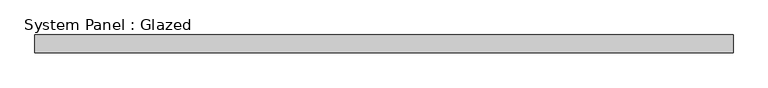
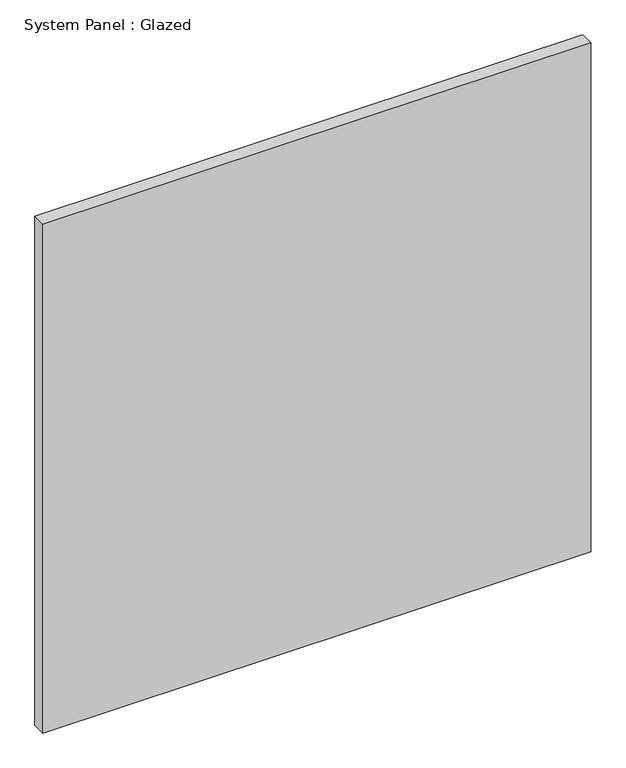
"""IFC4 building model written with IfcOpenShell, lengths in millimetres: plate geometry, System Panel : Glazed."""

from ifc_helpers import new_model, si_unit, origin, origin_with_axes, place, context, project, spatial, polyline, outline, extrude, source, transform, mapped, element, save


def system_panel_glazed_6a0b3b0c(model_context):
    return source(origin(), model_context, "Body", "SweptSolid", [
        extrude(outline(polyline([(501.1964286, 19.05), (-501.1964286, 19.05), (-501.1964286, 44.45), (501.1964286, 44.45), (501.1964286, 19.05)])), origin_with_axes(), (0.0, 0.0, 1.0), 984.3895219),
    ])


if __name__ == "__main__":
    model = new_model("IFC4")
    model_context = context("Model", 3, world=origin())
    ifc_project = project(units=[si_unit("LENGTHUNIT", "METRE", prefix="MILLI")], contexts=[model_context])
    site = spatial("IfcSite", under=ifc_project)
    building = spatial("IfcBuilding", under=site)
    placement = place(None, origin())
    system_panel_glazed_shape = system_panel_glazed_6a0b3b0c(model_context)
    element("IfcPlate", 1, ObjectType="System Panel : Glazed", at=placement, inside=building, context=model_context, shape_type="MappedRepresentation", body=[
        mapped(system_panel_glazed_shape, transform((0.0, 0.0, 0.0), x_axis=(1.0, 0.0, 0.0), y_axis=(0.0, 1.0, 0.0), z_axis=(0.0, 0.0, 1.0))),
    ])
    save(model, "model.ifc")
